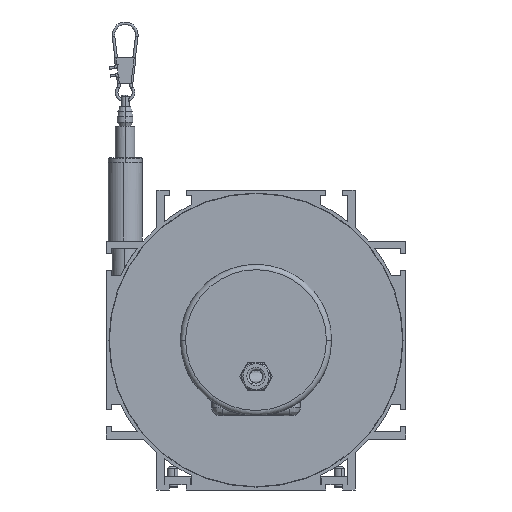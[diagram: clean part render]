
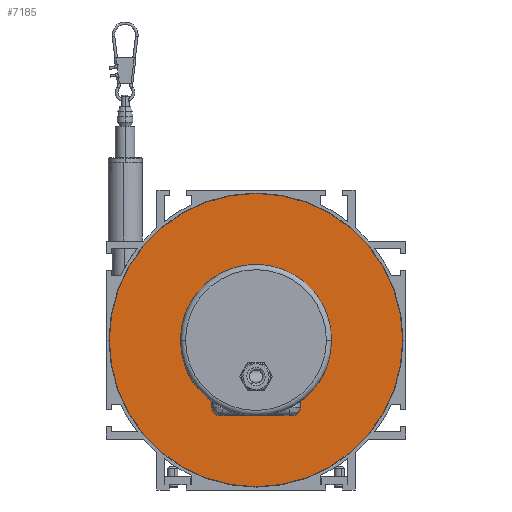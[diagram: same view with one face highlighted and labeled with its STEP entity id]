
A CAD part, left-side view. The second image highlights one B-rep face of the part: STEP entity #7185.
In plain terms, the highlighted planar face has unit normal (-1, 0, 0).
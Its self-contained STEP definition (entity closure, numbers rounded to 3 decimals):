
#802=CARTESIAN_POINT('',(0.,0.,0.));
#803=DIRECTION('',(1.,0.,0.));
#804=DIRECTION('',(0.,1.,0.));
#805=AXIS2_PLACEMENT_3D('',#802,#803,#804);
#807=CARTESIAN_POINT('',(0.,0.,0.));
#808=DIRECTION('',(1.,0.,0.));
#809=DIRECTION('',(0.,-1.,0.));
#810=AXIS2_PLACEMENT_3D('',#807,#808,#809);
#812=CARTESIAN_POINT('',(0.,0.,0.));
#813=DIRECTION('',(1.,0.,0.));
#814=DIRECTION('',(0.,-1.,0.));
#815=AXIS2_PLACEMENT_3D('',#812,#813,#814);
#817=CARTESIAN_POINT('',(0.,0.,0.));
#818=DIRECTION('',(1.,0.,0.));
#819=DIRECTION('',(0.,1.,0.));
#820=AXIS2_PLACEMENT_3D('',#817,#818,#819);
#5234=CARTESIAN_POINT('',(0.,-29.,0.));
#5235=CARTESIAN_POINT('',(0.,29.,0.));
#5236=VERTEX_POINT('',#5234);
#5237=VERTEX_POINT('',#5235);
#5255=CARTESIAN_POINT('',(0.,56.25,0.));
#5256=CARTESIAN_POINT('',(0.,-56.25,0.));
#5257=VERTEX_POINT('',#5255);
#5258=VERTEX_POINT('',#5256);
#7170=CARTESIAN_POINT('',(0.,0.,0.));
#7171=DIRECTION('',(-1.,0.,0.));
#7172=DIRECTION('',(0.,1.,0.));
#7173=AXIS2_PLACEMENT_3D('',#7170,#7171,#7172);
#7174=PLANE('',#7173);
#7175=ORIENTED_EDGE('',*,*,#7150,.T.);
#7176=ORIENTED_EDGE('',*,*,#7164,.T.);
#7177=EDGE_LOOP('',(#7175,#7176));
#7178=FACE_OUTER_BOUND('',#7177,.F.);
#7180=ORIENTED_EDGE('',*,*,#7179,.F.);
#7182=ORIENTED_EDGE('',*,*,#7181,.F.);
#7183=EDGE_LOOP('',(#7180,#7182));
#7184=FACE_BOUND('',#7183,.F.);
#7185=ADVANCED_FACE('',(#7178,#7184),#7174,.T.);
#806=CIRCLE('',#805,56.25);
#811=CIRCLE('',#810,56.25);
#816=CIRCLE('',#815,29.);
#821=CIRCLE('',#820,29.);
#7150=EDGE_CURVE('',#5257,#5258,#806,.T.);
#7164=EDGE_CURVE('',#5258,#5257,#811,.T.);
#7179=EDGE_CURVE('',#5236,#5237,#816,.T.);
#7181=EDGE_CURVE('',#5237,#5236,#821,.T.);
